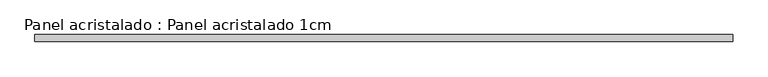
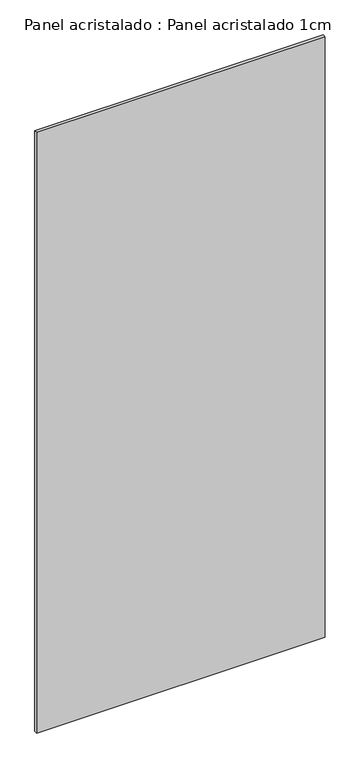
"""IFC4 building model written with IfcOpenShell, lengths in millimetres: plate geometry, Panel acristalado : Panel acristalado 1cm."""

from ifc_helpers import new_model, si_unit, origin, origin_with_axes, place, context, project, spatial, polyline, outline, extrude, source, transform, mapped, element, save


def panel_acristalado_panel_acristalado_1cm_53ca7ac7(model_context):
    return source(origin(), model_context, "Body", "SweptSolid", [
        extrude(outline(polyline([(500.0, 20.0), (-500.0, 20.0), (-500.0, 30.0), (500.0, 30.0), (500.0, 20.0)])), origin_with_axes(), (0.0, 0.0, 1.0), 2200.0),
    ])


if __name__ == "__main__":
    model = new_model("IFC4")
    model_context = context("Model", 3, world=origin())
    ifc_project = project(units=[si_unit("LENGTHUNIT", "METRE", prefix="MILLI")], contexts=[model_context])
    site = spatial("IfcSite", under=ifc_project)
    building = spatial("IfcBuilding", under=site)
    placement = place(None, origin())
    panel_acristalado_panel_acristalado_1cm_shape = panel_acristalado_panel_acristalado_1cm_53ca7ac7(model_context)
    element("IfcPlate", 1, ObjectType="Panel acristalado : Panel acristalado 1cm", at=placement, inside=building, context=model_context, shape_type="MappedRepresentation", body=[
        mapped(panel_acristalado_panel_acristalado_1cm_shape, transform((0.0, 0.0, 0.0), x_axis=(1.0, 0.0, 0.0), y_axis=(0.0, 1.0, 0.0), z_axis=(0.0, 0.0, 1.0))),
    ])
    save(model, "model.ifc")
